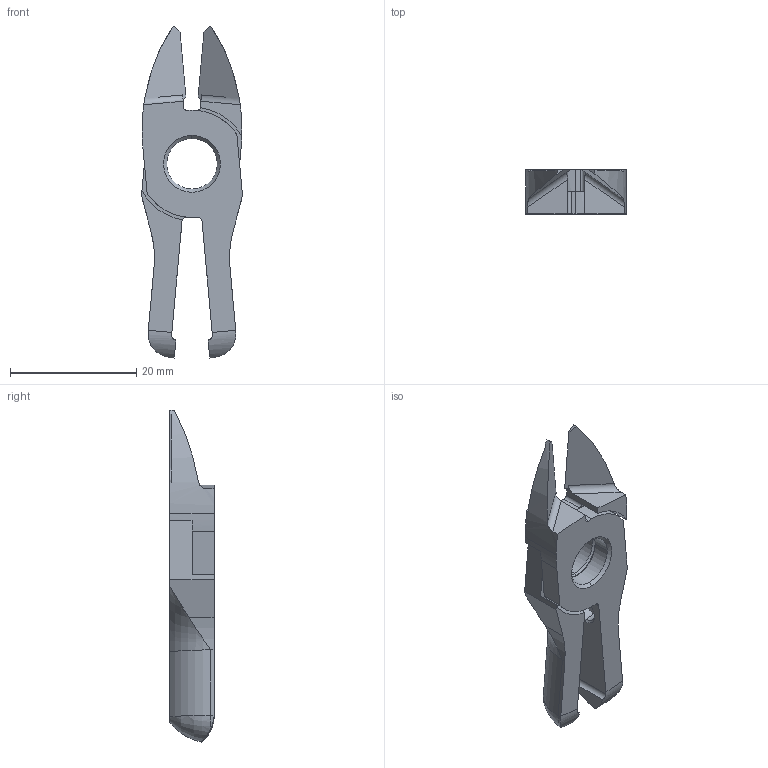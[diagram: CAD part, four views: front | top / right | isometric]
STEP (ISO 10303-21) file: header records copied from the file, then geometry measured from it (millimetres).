
FILE_DESCRIPTION (( 'STEP AP214' ), '1' );
FILE_NAME ('NY05AJB.STEP', '2019-11-28T02:46:45', ( '微软用户' ), ( '微软中国' ), 'SwSTEP 2.0', 'SolidWorks 2016', '' );
FILE_SCHEMA (( 'AUTOMOTIVE_DESIGN' ));
Length unit declared in the file: millimetre
Products named in the file (1): NY05AJB
Bounding box: 15.99 x 7 x 52.56 mm (x, y, z)
Surface area: 2745.2 mm2 (no closed solid volume)
Topology: 0 solids, 2 shells, 100 faces, 290 edges, 184 vertices
Faces by surface type: cylinder 46, plane 34, cone 16, torus 4
Entity records: 3507 total; most frequent: CARTESIAN_POINT 964, ORIENTED_EDGE 552, DIRECTION 512, EDGE_CURVE 286, AXIS2_PLACEMENT_3D 202, VERTEX_POINT 184, LINE 108, VECTOR 108
